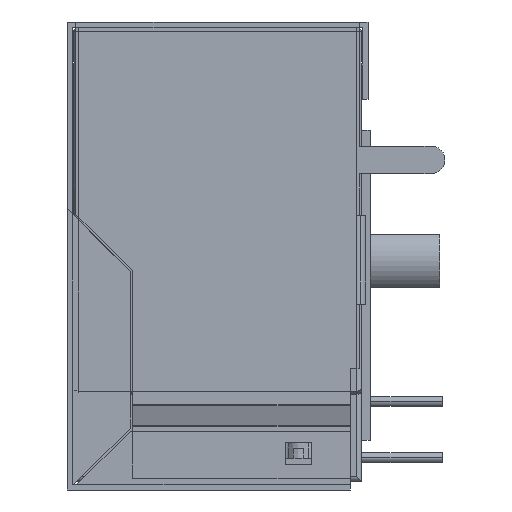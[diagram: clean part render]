
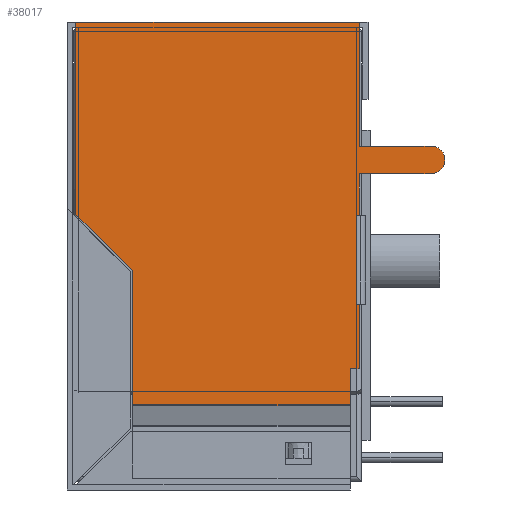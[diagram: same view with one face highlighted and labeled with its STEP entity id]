
A CAD part, left-side view. The second image highlights one B-rep face of the part: STEP entity #38017.
In plain terms, the highlighted planar face has unit normal (-1, 0, 0).
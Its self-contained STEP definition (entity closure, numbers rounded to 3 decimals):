
#32069=DIRECTION('',(0.,1.,0.));
#32070=VECTOR('',#32069,12.8);
#32071=CARTESIAN_POINT('',(-43.42,-6.425,10.635));
#32072=LINE('',#32071,#32070);
#33471=DIRECTION('',(0.,1.,0.));
#33472=VECTOR('',#33471,3.25);
#33473=CARTESIAN_POINT('',(-43.42,-9.675,5.03));
#33474=LINE('',#33473,#33472);
#33483=DIRECTION('',(0.,0.,1.));
#33484=VECTOR('',#33483,4.);
#33485=CARTESIAN_POINT('',(-43.42,-6.325,-2.115));
#33486=LINE('',#33485,#33484);
#33487=DIRECTION('',(0.,-1.,0.));
#33488=VECTOR('',#33487,0.1);
#33489=CARTESIAN_POINT('',(-43.42,-6.325,-2.115));
#33490=LINE('',#33489,#33488);
#33491=DIRECTION('',(0.,1.,0.));
#33492=VECTOR('',#33491,0.4);
#33493=CARTESIAN_POINT('',(-43.42,-6.425,-5.045));
#33494=LINE('',#33493,#33492);
#33495=DIRECTION('',(0.,1.,0.));
#33496=VECTOR('',#33495,9.85);
#33497=CARTESIAN_POINT('',(-43.42,-6.025,-6.712));
#33498=LINE('',#33497,#33496);
#33499=DIRECTION('',(0.,0.,1.));
#33500=VECTOR('',#33499,6.118);
#33501=CARTESIAN_POINT('',(-43.42,3.825,-6.712));
#33502=LINE('',#33501,#33500);
#33503=DIRECTION('',(0.,0.707,0.707));
#33504=VECTOR('',#33503,3.606);
#33505=CARTESIAN_POINT('',(-43.42,3.825,-0.594));
#33506=LINE('',#33505,#33504);
#33507=DIRECTION('',(0.,0.,1.));
#33508=VECTOR('',#33507,8.679);
#33509=CARTESIAN_POINT('',(-43.42,6.375,1.956));
#33510=LINE('',#33509,#33508);
#33511=DIRECTION('',(0.,0.,-1.));
#33512=VECTOR('',#33511,5.605);
#33513=CARTESIAN_POINT('',(-43.42,-6.425,10.635));
#33514=LINE('',#33513,#33512);
#33515=CARTESIAN_POINT('',(-43.42,-9.675,4.405));
#33516=DIRECTION('',(1.,0.,0.));
#33517=DIRECTION('',(0.,0.,1.));
#33518=AXIS2_PLACEMENT_3D('',#33515,#33516,#33517);
#33520=DIRECTION('',(0.,-1.,0.));
#33521=VECTOR('',#33520,0.1);
#33522=CARTESIAN_POINT('',(-43.42,-6.325,1.885));
#33523=LINE('',#33522,#33521);
#33589=DIRECTION('',(0.,0.,1.));
#33590=VECTOR('',#33589,1.895);
#33591=CARTESIAN_POINT('',(-43.42,-6.425,1.885));
#33592=LINE('',#33591,#33590);
#33601=DIRECTION('',(0.,-1.,0.));
#33602=VECTOR('',#33601,3.25);
#33603=CARTESIAN_POINT('',(-43.42,-6.425,3.78));
#33604=LINE('',#33603,#33602);
#33658=DIRECTION('',(0.,0.,1.));
#33659=VECTOR('',#33658,2.93);
#33660=CARTESIAN_POINT('',(-43.42,-6.425,-5.045));
#33661=LINE('',#33660,#33659);
#33674=DIRECTION('',(0.,0.,1.));
#33675=VECTOR('',#33674,1.667);
#33676=CARTESIAN_POINT('',(-43.42,-6.025,-6.712));
#33677=LINE('',#33676,#33675);
#36024=CARTESIAN_POINT('',(-43.42,-6.025,-6.712));
#36025=CARTESIAN_POINT('',(-43.42,3.825,-6.712));
#36026=VERTEX_POINT('',#36024);
#36027=VERTEX_POINT('',#36025);
#36028=CARTESIAN_POINT('',(-43.42,-6.425,-5.045));
#36029=CARTESIAN_POINT('',(-43.42,-6.025,-5.045));
#36030=VERTEX_POINT('',#36028);
#36031=VERTEX_POINT('',#36029);
#36032=CARTESIAN_POINT('',(-43.42,3.825,-0.594));
#36033=VERTEX_POINT('',#36032);
#36034=CARTESIAN_POINT('',(-43.42,6.375,1.956));
#36035=VERTEX_POINT('',#36034);
#36036=CARTESIAN_POINT('',(-43.42,-9.675,5.03));
#36037=CARTESIAN_POINT('',(-43.42,-6.425,5.03));
#36038=VERTEX_POINT('',#36036);
#36039=VERTEX_POINT('',#36037);
#36040=CARTESIAN_POINT('',(-43.42,-9.675,3.78));
#36041=VERTEX_POINT('',#36040);
#36042=CARTESIAN_POINT('',(-43.42,-6.425,3.78));
#36043=VERTEX_POINT('',#36042);
#36044=CARTESIAN_POINT('',(-43.42,-6.425,10.635));
#36045=CARTESIAN_POINT('',(-43.42,6.375,10.635));
#36046=VERTEX_POINT('',#36044);
#36047=VERTEX_POINT('',#36045);
#36064=CARTESIAN_POINT('',(-43.42,-6.325,-2.115));
#36065=CARTESIAN_POINT('',(-43.42,-6.325,1.885));
#36066=VERTEX_POINT('',#36064);
#36067=VERTEX_POINT('',#36065);
#36072=CARTESIAN_POINT('',(-43.42,-6.425,1.885));
#36073=VERTEX_POINT('',#36072);
#36074=CARTESIAN_POINT('',(-43.42,-6.425,-2.115));
#36075=VERTEX_POINT('',#36074);
#37983=CARTESIAN_POINT('',(-43.42,0.489,-9.046));
#37984=DIRECTION('',(1.,0.,0.));
#37985=DIRECTION('',(0.,1.,0.));
#37986=AXIS2_PLACEMENT_3D('',#37983,#37984,#37985);
#37987=PLANE('',#37986);
#37989=ORIENTED_EDGE('',*,*,#37988,.F.);
#37991=ORIENTED_EDGE('',*,*,#37990,.T.);
#37993=ORIENTED_EDGE('',*,*,#37992,.F.);
#37995=ORIENTED_EDGE('',*,*,#37994,.T.);
#37997=ORIENTED_EDGE('',*,*,#37996,.F.);
#37999=ORIENTED_EDGE('',*,*,#37998,.T.);
#38001=ORIENTED_EDGE('',*,*,#38000,.T.);
#38003=ORIENTED_EDGE('',*,*,#38002,.T.);
#38004=ORIENTED_EDGE('',*,*,#37893,.T.);
#38005=ORIENTED_EDGE('',*,*,#36455,.F.);
#38006=ORIENTED_EDGE('',*,*,#37947,.T.);
#38007=ORIENTED_EDGE('',*,*,#37964,.F.);
#38008=ORIENTED_EDGE('',*,*,#37974,.T.);
#38010=ORIENTED_EDGE('',*,*,#38009,.F.);
#38012=ORIENTED_EDGE('',*,*,#38011,.F.);
#38014=ORIENTED_EDGE('',*,*,#38013,.F.);
#38015=EDGE_LOOP('',(#37989,#37991,#37993,#37995,#37997,#37999,#38001,#38003,
#38004,#38005,#38006,#38007,#38008,#38010,#38012,#38014));
#38016=FACE_OUTER_BOUND('',#38015,.F.);
#38017=ADVANCED_FACE('',(#38016),#37987,.F.);
#33519=CIRCLE('',#33518,0.625);
#36455=EDGE_CURVE('',#36046,#36047,#32072,.T.);
#37893=EDGE_CURVE('',#36035,#36047,#33510,.T.);
#37947=EDGE_CURVE('',#36046,#36039,#33514,.T.);
#37964=EDGE_CURVE('',#36038,#36039,#33474,.T.);
#37974=EDGE_CURVE('',#36038,#36041,#33519,.T.);
#37988=EDGE_CURVE('',#36066,#36067,#33486,.T.);
#37990=EDGE_CURVE('',#36066,#36075,#33490,.T.);
#37992=EDGE_CURVE('',#36030,#36075,#33661,.T.);
#37994=EDGE_CURVE('',#36030,#36031,#33494,.T.);
#37996=EDGE_CURVE('',#36026,#36031,#33677,.T.);
#37998=EDGE_CURVE('',#36026,#36027,#33498,.T.);
#38000=EDGE_CURVE('',#36027,#36033,#33502,.T.);
#38002=EDGE_CURVE('',#36033,#36035,#33506,.T.);
#38009=EDGE_CURVE('',#36043,#36041,#33604,.T.);
#38011=EDGE_CURVE('',#36073,#36043,#33592,.T.);
#38013=EDGE_CURVE('',#36067,#36073,#33523,.T.);
